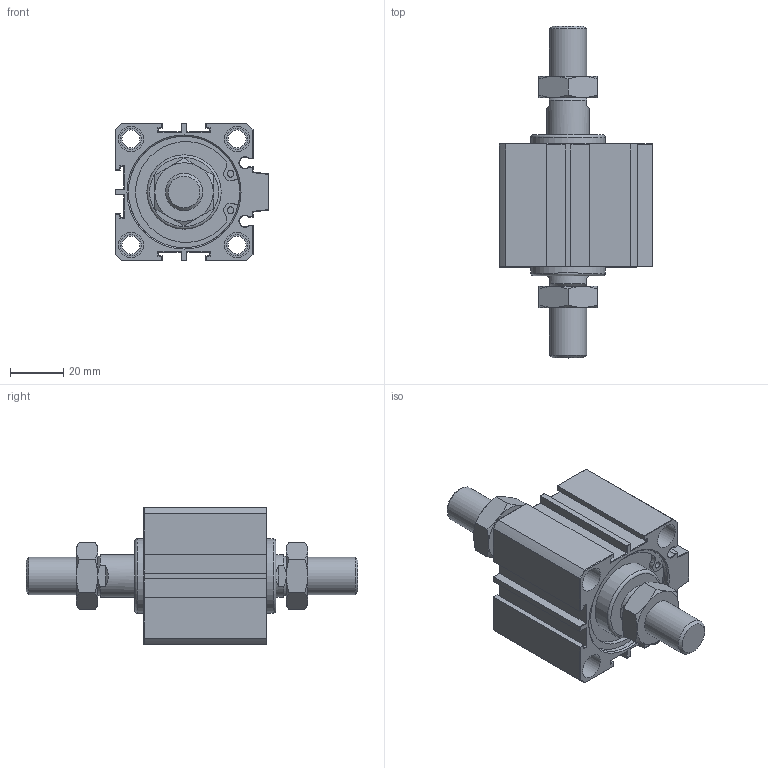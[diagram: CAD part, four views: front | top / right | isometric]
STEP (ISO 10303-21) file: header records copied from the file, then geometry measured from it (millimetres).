
FILE_DESCRIPTION(/* description */ (''),/* implementation_level */ '2;1');
FILE_NAME(/* name */ 'AJC-SWM40X10W',/* time_stamp */ '2019-07-19T14:58:57+08:00',/* author */ ('JEFF HUANG'),/* organization */ ('TAIWAN AMAC CLAMP INDUSTRIAL CO., LTD.'),/* preprocessor_version */ 'ST-DEVELOPER v16.7',/* originating_system */ 'DEX',/* authorisation */ $);
FILE_SCHEMA (('AUTOMOTIVE_DESIGN {1 0 10303 214 3 1 1}'));
Length unit declared in the file: millimetre
Products named in the file (1): AJC-SWM40X10W
Bounding box: 58 x 125.1 x 52 mm (x, y, z)
Volume: 123976.4 mm3; surface area: 30536.9 mm2
Topology: 1 solids, 1 shells, 313 faces, 685 edges, 406 vertices
Faces by surface type: plane 212, cylinder 53, cone 46, torus 2
Full cylindrical faces by diameter (mm): 2.5 x4, 6.8 x4, 8 x8, 9.147 x2, 9.5 x8, 14 x2, 16 x1, 28 x2, 42 x2
Entity records: 10419 total; most frequent: CARTESIAN_POINT 1606, DIRECTION 1350, ORIENTED_EDGE 1278, EDGE_CURVE 639, AXIS2_PLACEMENT_3D 477, VERTEX_POINT 401, LINE 396, VECTOR 396
